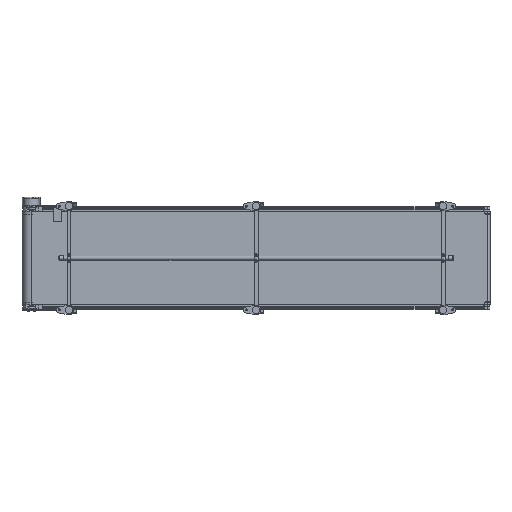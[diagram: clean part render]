
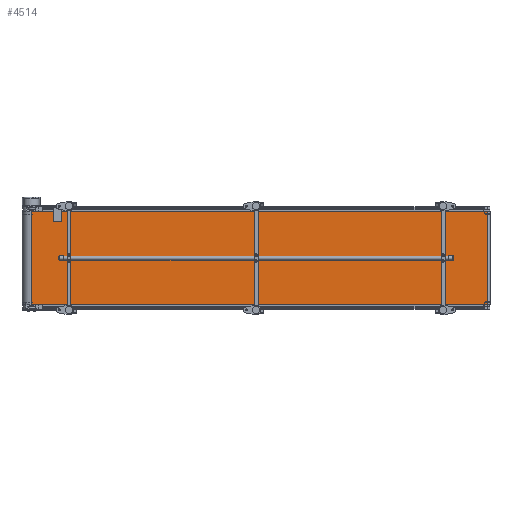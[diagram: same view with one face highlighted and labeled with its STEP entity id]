
A CAD part, front view. The second image highlights one B-rep face of the part: STEP entity #4514.
In plain terms, the highlighted planar face has unit normal (0.028, -1, 0).
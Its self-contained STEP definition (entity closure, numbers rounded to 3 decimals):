
#4514=ADVANCED_FACE('',(#29533),#29532,.F.);
#29532=PLANE('',#45243);
#29533=FACE_OUTER_BOUND('',#45244,.T.);
#45240=CARTESIAN_POINT('',(2992.998,-33.417,-310.));
#45241=DIRECTION('',(-0.028,1.,0.));
#45242=DIRECTION('',(-1.,-0.028,0.));
#45243=AXIS2_PLACEMENT_3D('',#45240,#45241,#45242);
#45244=EDGE_LOOP('',(#58122,#58123,#58124,#58125));
#58122=ORIENTED_EDGE('',*,*,#64943,.T.);
#58123=ORIENTED_EDGE('',*,*,#64950,.F.);
#58124=ORIENTED_EDGE('',*,*,#64937,.F.);
#58125=ORIENTED_EDGE('',*,*,#64951,.T.);
#64937=EDGE_CURVE('',#105988,#105973,#105995,.T.);
#64943=EDGE_CURVE('',#106037,#106029,#106038,.T.);
#64950=EDGE_CURVE('',#105973,#106029,#106085,.T.);
#64951=EDGE_CURVE('',#105988,#106037,#106091,.T.);
#105973=VERTEX_POINT('',#133251);
#105988=VERTEX_POINT('',#133261);
#105995=LINE('',#133266,#133267);
#106029=VERTEX_POINT('',#133287);
#106037=VERTEX_POINT('',#133293);
#106038=LINE('',#133294,#133295);
#106085=LINE('',#133323,#133324);
#106091=LINE('',#133326,#133327);
#133251=CARTESIAN_POINT('',(2983.002,-33.693,300.));
#133261=CARTESIAN_POINT('',(59.109,-114.328,300.));
#133266=CARTESIAN_POINT('',(59.109,-114.328,300.));
#133267=VECTOR('',#133268,2925.005);
#133268=DIRECTION('',(1.,0.028,0.));
#133287=CARTESIAN_POINT('',(2983.002,-33.693,-300.));
#133293=CARTESIAN_POINT('',(59.109,-114.328,-300.));
#133294=CARTESIAN_POINT('',(59.109,-114.328,-300.));
#133295=VECTOR('',#133296,2925.005);
#133296=DIRECTION('',(1.,0.028,0.));
#133323=CARTESIAN_POINT('',(2983.002,-33.693,300.));
#133324=VECTOR('',#133325,600.);
#133325=DIRECTION('',(0.,0.,-1.));
#133326=CARTESIAN_POINT('',(59.109,-114.328,300.));
#133327=VECTOR('',#133328,600.);
#133328=DIRECTION('',(0.,0.,-1.));
